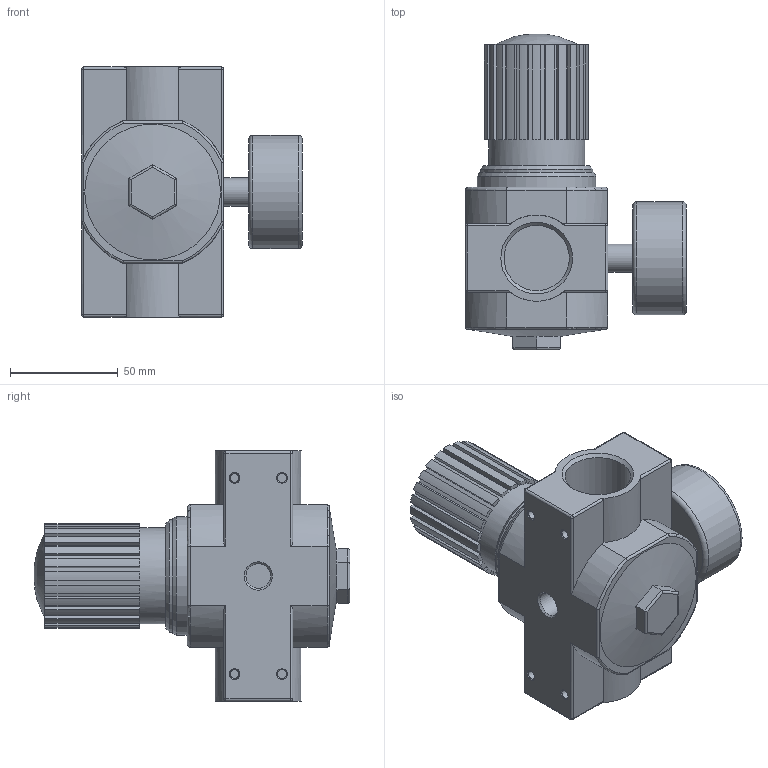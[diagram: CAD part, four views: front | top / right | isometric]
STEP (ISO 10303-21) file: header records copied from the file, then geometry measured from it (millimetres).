
FILE_DESCRIPTION(/* description */ ('STEP AP214'),/* implementation_level */ '2;1');
FILE_NAME(/* name */ '90-RC-10-xx-02.stp',/* time_stamp */ '2026-01-20T14:59:38+01:00',/* author */ ('Tschernatsch'),/* organization */ ('CADENAS'),/* preprocessor_version */ 'ST-DEVELOPER v20',/* originating_system */ 'Autodesk Inventor 2024',/* authorisation */ ' ');
FILE_SCHEMA (('AUTOMOTIVE_DESIGN { 1 0 10303 214 3 1 1 }'));
Length unit declared in the file: millimetre
Products named in the file (1): LR-G1-MAXI
Bounding box: 102.5 x 146.51 x 116 mm (x, y, z)
Volume: 527409 mm3; surface area: 62645.3 mm2
Topology: 1 solids, 2 shells, 223 faces, 572 edges, 358 vertices
Faces by surface type: plane 111, cylinder 83, torus 10, cone 10, sphere 8, bspline 1
Full cylindrical faces by diameter (mm): 4.134 x4, 11.445 x2, 13.157 x1, 30.291 x2, 44.6 x1, 52 x1, 52.5 x1, 55 x1
Entity records: 7055 total; most frequent: CARTESIAN_POINT 1551, DIRECTION 1175, ORIENTED_EDGE 1126, EDGE_CURVE 563, AXIS2_PLACEMENT_3D 427, VERTEX_POINT 358, LINE 321, VECTOR 321
